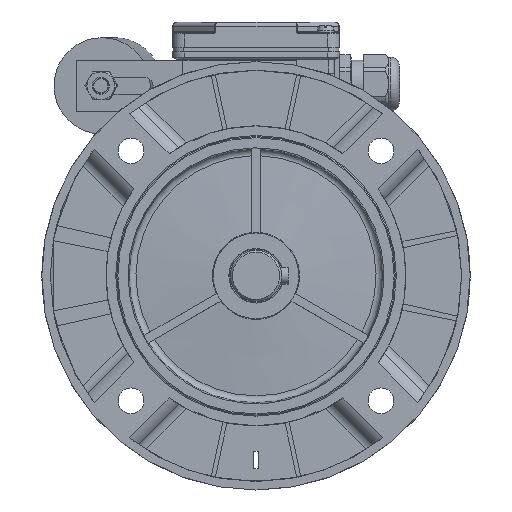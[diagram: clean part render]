
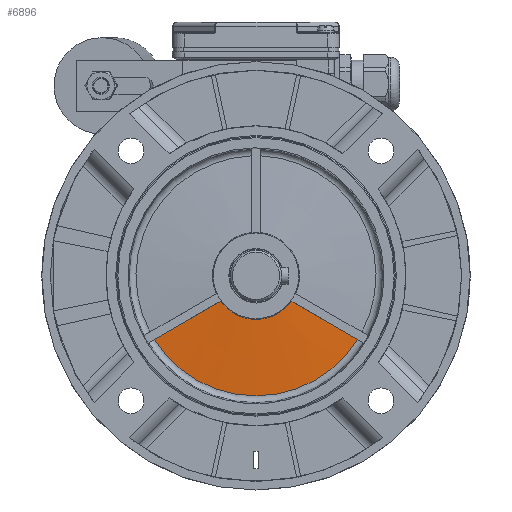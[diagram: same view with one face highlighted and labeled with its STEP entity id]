
A CAD part, left-side view. The second image highlights one B-rep face of the part: STEP entity #6896.
In plain terms, the highlighted conical face has half-angle 85.7 degrees and reference radius 56.036 mm.
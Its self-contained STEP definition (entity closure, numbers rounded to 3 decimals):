
#6896 = ADVANCED_FACE( '', ( #13880 ), #13881, .T. );
#13880 = FACE_OUTER_BOUND( '', #33226, .T. );
#13881 = CONICAL_SURFACE( '', #33227, 56.036, 1.496 );
#33226 = EDGE_LOOP( '', ( #52834, #52835, #52836, #52837 ) );
#33227 = AXIS2_PLACEMENT_3D( '', #52838, #52839, #52840 );
#52834 = ORIENTED_EDGE( '', *, *, #60291, .F. );
#52835 = ORIENTED_EDGE( '', *, *, #62102, .F. );
#52836 = ORIENTED_EDGE( '', *, *, #62311, .F. );
#52837 = ORIENTED_EDGE( '', *, *, #57338, .T. );
#52838 = CARTESIAN_POINT( '', ( 0., 0., 16.952 ) );
#52839 = DIRECTION( '', ( 0., 0., 1. ) );
#52840 = DIRECTION( '', ( 1., 0., 0. ) );
#57338 = EDGE_CURVE( '', #68105, #68103, #68106, .T. );
#60291 = EDGE_CURVE( '', #72661, #68103, #72663, .T. );
#62102 = EDGE_CURVE( '', #74994, #72661, #74996, .T. );
#62311 = EDGE_CURVE( '', #68105, #74994, #75225, .T. );
#68103 = VERTEX_POINT( '', #86551 );
#68105 = VERTEX_POINT( '', #86559 );
#68106 = CIRCLE( '', #86560, 20.327 );
#72661 = VERTEX_POINT( '', #96441 );
#72663 = B_SPLINE_CURVE_WITH_KNOTS( '', 3, ( #96460, #96461, #96462, #96463 ), .UNSPECIFIED., .F., .F., ( 4, 4 ), ( 0.023, 0.059 ), .UNSPECIFIED. );
#74994 = VERTEX_POINT( '', #101941 );
#74996 = CIRCLE( '', #101960, 56.036 );
#75225 = B_SPLINE_CURVE_WITH_KNOTS( '', 3, ( #102399, #102400, #102401, #102402 ), .UNSPECIFIED., .F., .F., ( 4, 4 ), ( 0.025, 0.061 ), .UNSPECIFIED. );
#86551 = CARTESIAN_POINT( '', ( 16.519, -11.846, 14.267 ) );
#86559 = CARTESIAN_POINT( '', ( -16.519, -11.846, 14.267 ) );
#86560 = AXIS2_PLACEMENT_3D( '', #107336, #107337, #107338 );
#96441 = CARTESIAN_POINT( '', ( 47.497, -29.732, 16.952 ) );
#96460 = CARTESIAN_POINT( '', ( 47.497, -29.732, 16.952 ) );
#96461 = CARTESIAN_POINT( '', ( 37.171, -23.77, 16.056 ) );
#96462 = CARTESIAN_POINT( '', ( 26.845, -17.808, 15.159 ) );
#96463 = CARTESIAN_POINT( '', ( 16.519, -11.846, 14.267 ) );
#101941 = CARTESIAN_POINT( '', ( -47.497, -29.732, 16.952 ) );
#101960 = AXIS2_PLACEMENT_3D( '', #113037, #113038, #113039 );
#102399 = CARTESIAN_POINT( '', ( -16.519, -11.846, 14.267 ) );
#102400 = CARTESIAN_POINT( '', ( -26.845, -17.808, 15.159 ) );
#102401 = CARTESIAN_POINT( '', ( -37.171, -23.77, 16.056 ) );
#102402 = CARTESIAN_POINT( '', ( -47.497, -29.732, 16.952 ) );
#107336 = CARTESIAN_POINT( '', ( 0., 0., 14.267 ) );
#107337 = DIRECTION( '', ( 0., 0., 1. ) );
#107338 = DIRECTION( '', ( 1., 0., 0. ) );
#113037 = CARTESIAN_POINT( '', ( 0., 0., 16.952 ) );
#113038 = DIRECTION( '', ( 0., 0., 1. ) );
#113039 = DIRECTION( '', ( 1., 0., 0. ) );
